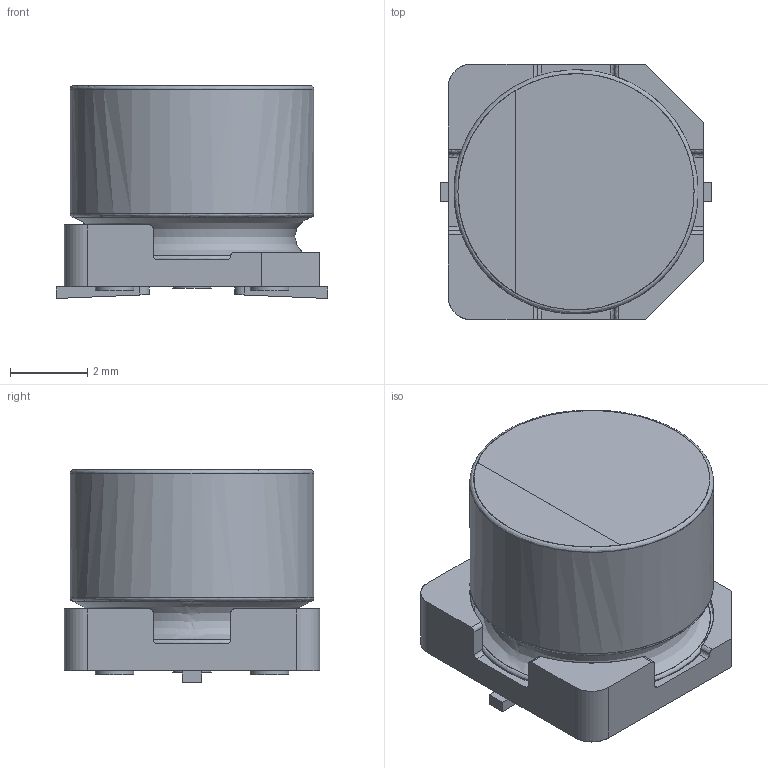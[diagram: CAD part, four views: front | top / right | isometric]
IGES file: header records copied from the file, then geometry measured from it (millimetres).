
Start section: JAMA-IS VERSION  1.0
Bounding box: 7 x 6.6 x 5.5 mm (x, y, z)
Surface area: 293.4 mm2 (no closed solid volume)
Topology: 0 solids, 0 shells, 74 faces, 994 edges, 976 vertices
Faces by surface type: bspline 74
